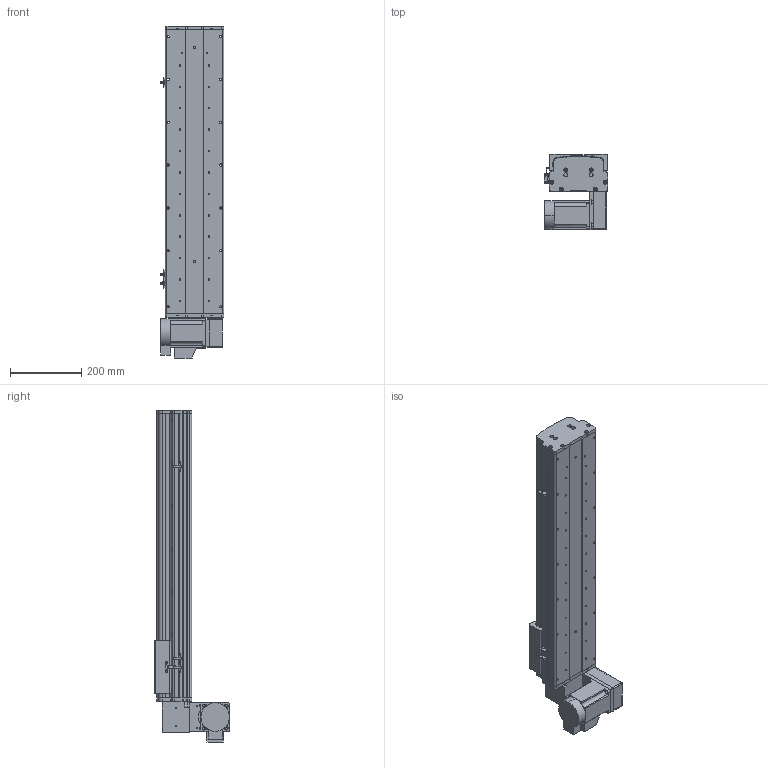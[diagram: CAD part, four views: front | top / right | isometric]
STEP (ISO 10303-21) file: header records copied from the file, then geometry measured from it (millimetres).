
FILE_DESCRIPTION (( 'STEP AP214' ), '1' );
FILE_NAME ('KSD165B-S550-MRD-CM.STEP', '2017-10-16T09:22:40', ( '微软用户' ), ( '微软中国' ), 'SwSTEP 2.0', 'SolidWorks 2014', '' );
FILE_SCHEMA (( 'AUTOMOTIVE_DESIGN' ));
Length unit declared in the file: millimetre
Products named in the file (17): KSD165B-S550-MRD-CM; 130宽模组马达安装板连板上下折丝杆同步带; 130宽模组保护罩上下左右折-同步带; HTPA26S5M250-A-H8 750W萇儂蚚; HTPA26S5M250-A-H8 400W萇儂蚚 ; KSD165模组-同步带防尘盖1-550行程-最新版; KSD165模组同步带底板-550行程-最新; 拸秶雄ん750W侜督萇儂; 165宽马达安装板同步带右; U倰嫖萇假蚾璃; U倰嫖萇EEㄜSX672; 覜茼え68遵圉猾敕; KSD165模组-同步带-防撞垫2; KSD165模组同步带-防撞垫1; KSD165耀郪-ヶ傷啣1-肮祭湍; KSD165模组-后端板1-同步带; KSD165模组-同步带滑动座-最新版
Assembly tree (20 placements, depth 2):
  KSD165B-S550-MRD-CM
    KSD165模组-同步带滑动座-最新版
    KSD165模组-后端板1-同步带
    KSD165耀郪-ヶ傷啣1-肮祭湍
    KSD165模组同步带-防撞垫1
    KSD165模组-同步带-防撞垫2
    覜茼え68遵圉猾敕
    U倰嫖萇EEㄜSX672  x3
    U倰嫖萇假蚾璃  x3
    165宽马达安装板同步带右
    拸秶雄ん750W侜督萇儂
    KSD165模组同步带底板-550行程-最新
    KSD165模组-同步带防尘盖1-550行程-最新版
    HTPA26S5M250-A-H8 400W萇儂蚚 
    HTPA26S5M250-A-H8 750W萇儂蚚
    130宽模组保护罩上下左右折-同步带
    130宽模组马达安装板连板上下折丝杆同步带
Bounding box: 178.7 x 210 x 930.5 mm (x, y, z)
Volume: 5887263.9 mm3; surface area: 1361888.1 mm2
Topology: 21 solids, 21 shells, 1903 faces, 5364 edges, 3500 vertices
Faces by surface type: cylinder 1211, plane 580, cone 112
Entity records: 61252 total; most frequent: CARTESIAN_POINT 12556, DIRECTION 10112, ORIENTED_EDGE 9388, EDGE_CURVE 4694, AXIS2_PLACEMENT_3D 3958, VERTEX_POINT 3092, CIRCLE 2252, VECTOR 2196
